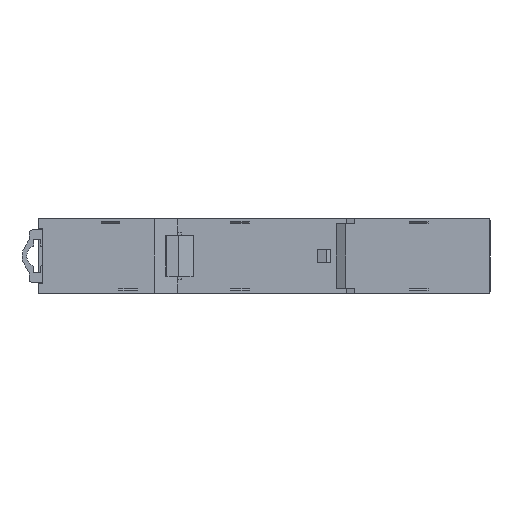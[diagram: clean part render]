
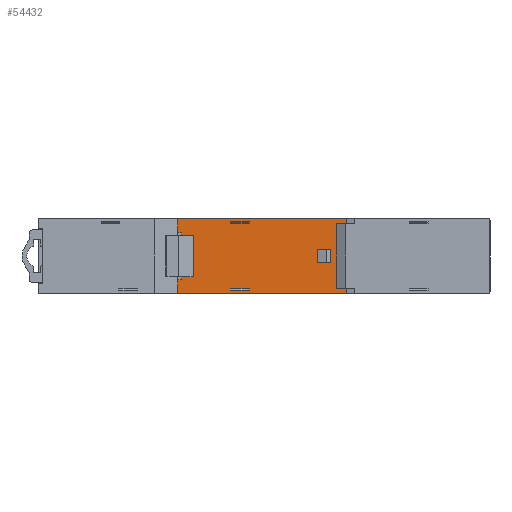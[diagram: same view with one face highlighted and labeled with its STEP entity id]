
A CAD part, front view. The second image highlights one B-rep face of the part: STEP entity #54432.
In plain terms, the highlighted planar face has unit normal (0, -1, 0).
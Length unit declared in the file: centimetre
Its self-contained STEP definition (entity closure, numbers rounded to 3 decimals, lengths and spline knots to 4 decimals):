
#1257=CARTESIAN_POINT('',(2.84,0.36,-0.4985));
#1258=VERTEX_POINT('',#1257);
#1267=CARTESIAN_POINT('',(2.922,0.36,-0.4985));
#1268=VERTEX_POINT('',#1267);
#1269=CARTESIAN_POINT('',(2.922,0.36,-0.4985));
#1270=DIRECTION('',(-1.0,0.0,0.0));
#1271=VECTOR('',#1270,0.082);
#1272=LINE('',#1269,#1271);
#1273=EDGE_CURVE('',#1268,#1258,#1272,.T.);
#1299=CARTESIAN_POINT('',(2.84,0.36,0.4915));
#1300=VERTEX_POINT('',#1299);
#1315=CARTESIAN_POINT('',(2.922,0.36,0.4915));
#1316=VERTEX_POINT('',#1315);
#1323=CARTESIAN_POINT('',(2.84,0.36,0.4915));
#1324=DIRECTION('',(1.0,0.0,0.0));
#1325=VECTOR('',#1324,0.082);
#1326=LINE('',#1323,#1325);
#1327=EDGE_CURVE('',#1300,#1316,#1326,.T.);
#1387=CARTESIAN_POINT('',(2.965,0.36,0.4315));
#1388=VERTEX_POINT('',#1387);
#1395=CARTESIAN_POINT('',(2.922,0.36,0.4315));
#1396=VERTEX_POINT('',#1395);
#1397=CARTESIAN_POINT('',(2.922,0.36,0.4315));
#1398=DIRECTION('',(1.0,0.0,0.0));
#1399=VECTOR('',#1398,0.043);
#1400=LINE('',#1397,#1399);
#1401=EDGE_CURVE('',#1396,#1388,#1400,.T.);
#2206=CARTESIAN_POINT('',(2.922,0.36,-0.4385));
#2207=VERTEX_POINT('',#2206);
#2208=CARTESIAN_POINT('',(2.922,0.36,-0.4385));
#2209=DIRECTION('',(0.0,0.0,-1.0));
#2210=VECTOR('',#2209,0.06);
#2211=LINE('',#2208,#2210);
#2212=EDGE_CURVE('',#2207,#1268,#2211,.T.);
#2640=CARTESIAN_POINT('',(2.965,0.36,-0.4385));
#2641=VERTEX_POINT('',#2640);
#2642=CARTESIAN_POINT('',(2.965,0.36,-0.4385));
#2643=DIRECTION('',(-1.0,0.0,0.0));
#2644=VECTOR('',#2643,0.043);
#2645=LINE('',#2642,#2644);
#2646=EDGE_CURVE('',#2641,#2207,#2645,.T.);
#2833=CARTESIAN_POINT('',(2.965,0.36,0.4315));
#2834=DIRECTION('',(0.0,0.0,-1.0));
#2835=VECTOR('',#2834,0.87);
#2836=LINE('',#2833,#2835);
#2837=EDGE_CURVE('',#1388,#2641,#2836,.T.);
#2849=CARTESIAN_POINT('',(2.922,0.36,0.4915));
#2850=DIRECTION('',(0.0,0.0,-1.0));
#2851=VECTOR('',#2850,0.06);
#2852=LINE('',#2849,#2851);
#2853=EDGE_CURVE('',#1316,#1396,#2852,.T.);
#2930=CARTESIAN_POINT('',(2.84,0.36,0.79));
#2931=VERTEX_POINT('',#2930);
#2932=CARTESIAN_POINT('',(2.84,0.36,0.4915));
#2933=DIRECTION('',(0.0,0.0,1.0));
#2934=VECTOR('',#2933,0.2985);
#2935=LINE('',#2932,#2934);
#2936=EDGE_CURVE('',#1300,#2931,#2935,.T.);
#20051=CARTESIAN_POINT('',(6.4,0.36,-0.68));
#20052=VERTEX_POINT('',#20051);
#20059=CARTESIAN_POINT('',(6.4,0.36,-0.79));
#20060=VERTEX_POINT('',#20059);
#20061=CARTESIAN_POINT('',(6.4,0.36,-0.68));
#20062=DIRECTION('',(0.0,0.0,-1.0));
#20063=VECTOR('',#20062,0.11);
#20064=LINE('',#20061,#20063);
#20065=EDGE_CURVE('',#20052,#20060,#20064,.T.);
#20175=CARTESIAN_POINT('',(4.355,0.36,-0.69));
#20176=VERTEX_POINT('',#20175);
#20183=CARTESIAN_POINT('',(3.955,0.36,-0.69));
#20184=VERTEX_POINT('',#20183);
#20185=CARTESIAN_POINT('',(3.955,0.36,-0.69));
#20186=DIRECTION('',(1.0,0.0,0.0));
#20187=VECTOR('',#20186,0.4);
#20188=LINE('',#20185,#20187);
#20189=EDGE_CURVE('',#20184,#20176,#20188,.T.);
#21280=CARTESIAN_POINT('',(4.355,0.36,0.69));
#21281=VERTEX_POINT('',#21280);
#21298=CARTESIAN_POINT('',(3.955,0.36,0.69));
#21299=VERTEX_POINT('',#21298);
#21306=CARTESIAN_POINT('',(3.955,0.36,0.69));
#21307=DIRECTION('',(1.0,0.0,0.0));
#21308=VECTOR('',#21307,0.4);
#21309=LINE('',#21306,#21308);
#21310=EDGE_CURVE('',#21299,#21281,#21309,.T.);
#25384=CARTESIAN_POINT('',(6.4,0.36,0.79));
#25385=VERTEX_POINT('',#25384);
#25386=CARTESIAN_POINT('',(2.84,0.36,0.79));
#25387=DIRECTION('',(1.0,0.0,0.0));
#25388=VECTOR('',#25387,3.56);
#25389=LINE('',#25386,#25388);
#25390=EDGE_CURVE('',#2931,#25385,#25389,.T.);
#26352=CARTESIAN_POINT('',(2.84,0.36,-0.79));
#26353=VERTEX_POINT('',#26352);
#26354=CARTESIAN_POINT('',(2.84,0.36,-0.79));
#26355=DIRECTION('',(1.0,0.0,0.0));
#26356=VECTOR('',#26355,3.56);
#26357=LINE('',#26354,#26356);
#26358=EDGE_CURVE('',#26353,#20060,#26357,.T.);
#32488=CARTESIAN_POINT('',(6.4,0.36,0.68));
#32489=VERTEX_POINT('',#32488);
#32498=CARTESIAN_POINT('',(6.4,0.36,0.79));
#32499=DIRECTION('',(0.0,0.0,-1.0));
#32500=VECTOR('',#32499,0.11);
#32501=LINE('',#32498,#32500);
#32502=EDGE_CURVE('',#25385,#32489,#32501,.T.);
#42198=CARTESIAN_POINT('',(3.955,0.36,-0.72));
#42199=VERTEX_POINT('',#42198);
#42200=CARTESIAN_POINT('',(3.955,0.36,-0.72));
#42201=DIRECTION('',(0.0,0.0,1.0));
#42202=VECTOR('',#42201,0.03);
#42203=LINE('',#42200,#42202);
#42204=EDGE_CURVE('',#42199,#20184,#42203,.T.);
#42223=CARTESIAN_POINT('',(4.355,0.36,-0.72));
#42224=VERTEX_POINT('',#42223);
#42225=CARTESIAN_POINT('',(4.355,0.36,-0.72));
#42226=DIRECTION('',(-1.0,0.0,0.0));
#42227=VECTOR('',#42226,0.4);
#42228=LINE('',#42225,#42227);
#42229=EDGE_CURVE('',#42224,#42199,#42228,.T.);
#42245=CARTESIAN_POINT('',(4.355,0.36,-0.69));
#42246=DIRECTION('',(0.0,0.0,-1.0));
#42247=VECTOR('',#42246,0.03);
#42248=LINE('',#42245,#42247);
#42249=EDGE_CURVE('',#20176,#42224,#42248,.T.);
#42262=CARTESIAN_POINT('',(3.955,0.36,0.72));
#42263=VERTEX_POINT('',#42262);
#42270=CARTESIAN_POINT('',(3.955,0.36,0.69));
#42271=DIRECTION('',(0.0,0.0,1.0));
#42272=VECTOR('',#42271,0.03);
#42273=LINE('',#42270,#42272);
#42274=EDGE_CURVE('',#21299,#42263,#42273,.T.);
#42284=CARTESIAN_POINT('',(4.355,0.36,0.72));
#42285=VERTEX_POINT('',#42284);
#42286=CARTESIAN_POINT('',(3.955,0.36,0.72));
#42287=DIRECTION('',(1.0,0.0,0.0));
#42288=VECTOR('',#42287,0.4);
#42289=LINE('',#42286,#42288);
#42290=EDGE_CURVE('',#42263,#42285,#42289,.T.);
#42309=CARTESIAN_POINT('',(4.355,0.36,0.72));
#42310=DIRECTION('',(0.0,0.0,-1.0));
#42311=VECTOR('',#42310,0.03);
#42312=LINE('',#42309,#42311);
#42313=EDGE_CURVE('',#42285,#21281,#42312,.T.);
#54278=CARTESIAN_POINT('',(6.39,0.36,0.68));
#54279=VERTEX_POINT('',#54278);
#54280=CARTESIAN_POINT('',(6.4,0.36,0.68));
#54281=DIRECTION('',(-1.0,0.0,0.0));
#54282=VECTOR('',#54281,0.01);
#54283=LINE('',#54280,#54282);
#54284=EDGE_CURVE('',#32489,#54279,#54283,.T.);
#54346=CARTESIAN_POINT('',(2.662,0.36,-0.869));
#54347=DIRECTION('',(0.0,-1.0,0.0));
#54348=DIRECTION('',(1.0,0.0,0.0));
#54349=AXIS2_PLACEMENT_3D('',#54346,#54347,#54348);
#54350=PLANE('',#54349);
#54351=ORIENTED_EDGE('',*,*,#1273,.T.);
#54352=CARTESIAN_POINT('',(2.84,0.36,-0.79));
#54353=DIRECTION('',(0.0,0.0,1.0));
#54354=VECTOR('',#54353,0.2915);
#54355=LINE('',#54352,#54354);
#54356=EDGE_CURVE('',#26353,#1258,#54355,.T.);
#54357=ORIENTED_EDGE('',*,*,#54356,.F.);
#54358=ORIENTED_EDGE('',*,*,#26358,.T.);
#54359=ORIENTED_EDGE('',*,*,#20065,.F.);
#54360=CARTESIAN_POINT('',(6.39,0.36,-0.68));
#54361=VERTEX_POINT('',#54360);
#54362=CARTESIAN_POINT('',(6.39,0.36,-0.68));
#54363=DIRECTION('',(1.0,0.0,0.0));
#54364=VECTOR('',#54363,0.01);
#54365=LINE('',#54362,#54364);
#54366=EDGE_CURVE('',#54361,#20052,#54365,.T.);
#54367=ORIENTED_EDGE('',*,*,#54366,.F.);
#54368=CARTESIAN_POINT('',(6.39,0.36,-0.68));
#54369=DIRECTION('',(0.0,0.0,1.0));
#54370=VECTOR('',#54369,1.36);
#54371=LINE('',#54368,#54370);
#54372=EDGE_CURVE('',#54361,#54279,#54371,.T.);
#54373=ORIENTED_EDGE('',*,*,#54372,.T.);
#54374=ORIENTED_EDGE('',*,*,#54284,.F.);
#54375=ORIENTED_EDGE('',*,*,#32502,.F.);
#54376=ORIENTED_EDGE('',*,*,#25390,.F.);
#54377=ORIENTED_EDGE('',*,*,#2936,.F.);
#54378=ORIENTED_EDGE('',*,*,#1327,.T.);
#54379=ORIENTED_EDGE('',*,*,#2853,.T.);
#54380=ORIENTED_EDGE('',*,*,#1401,.T.);
#54381=ORIENTED_EDGE('',*,*,#2837,.T.);
#54382=ORIENTED_EDGE('',*,*,#2646,.T.);
#54383=ORIENTED_EDGE('',*,*,#2212,.T.);
#54384=EDGE_LOOP('',(#54351,#54357,#54358,#54359,#54367,#54373,#54374,#54375,#54376,#54377,#54378,#54379,#54380,#54381,#54382,#54383));
#54385=FACE_OUTER_BOUND('',#54384,.T.);
#54386=ORIENTED_EDGE('',*,*,#42249,.T.);
#54387=ORIENTED_EDGE('',*,*,#42229,.T.);
#54388=ORIENTED_EDGE('',*,*,#42204,.T.);
#54389=ORIENTED_EDGE('',*,*,#20189,.T.);
#54390=EDGE_LOOP('',(#54386,#54387,#54388,#54389));
#54391=FACE_BOUND('',#54390,.T.);
#54392=ORIENTED_EDGE('',*,*,#21310,.F.);
#54393=ORIENTED_EDGE('',*,*,#42274,.T.);
#54394=ORIENTED_EDGE('',*,*,#42290,.T.);
#54395=ORIENTED_EDGE('',*,*,#42313,.T.);
#54396=EDGE_LOOP('',(#54392,#54393,#54394,#54395));
#54397=FACE_BOUND('',#54396,.T.);
#54398=CARTESIAN_POINT('',(6.0766,0.36,-0.14));
#54399=VERTEX_POINT('',#54398);
#54400=CARTESIAN_POINT('',(5.8034,0.36,-0.14));
#54401=VERTEX_POINT('',#54400);
#54402=CARTESIAN_POINT('',(6.0766,0.36,-0.14));
#54403=DIRECTION('',(-1.0,0.0,0.0));
#54404=VECTOR('',#54403,0.2732);
#54405=LINE('',#54402,#54404);
#54406=EDGE_CURVE('',#54399,#54401,#54405,.T.);
#54407=ORIENTED_EDGE('',*,*,#54406,.T.);
#54408=CARTESIAN_POINT('',(5.8034,0.36,0.14));
#54409=VERTEX_POINT('',#54408);
#54410=CARTESIAN_POINT('',(5.8034,0.36,-0.14));
#54411=DIRECTION('',(0.0,0.0,1.0));
#54412=VECTOR('',#54411,0.28);
#54413=LINE('',#54410,#54412);
#54414=EDGE_CURVE('',#54401,#54409,#54413,.T.);
#54415=ORIENTED_EDGE('',*,*,#54414,.T.);
#54416=CARTESIAN_POINT('',(6.0766,0.36,0.14));
#54417=VERTEX_POINT('',#54416);
#54418=CARTESIAN_POINT('',(5.8034,0.36,0.14));
#54419=DIRECTION('',(1.0,0.0,0.0));
#54420=VECTOR('',#54419,0.2732);
#54421=LINE('',#54418,#54420);
#54422=EDGE_CURVE('',#54409,#54417,#54421,.T.);
#54423=ORIENTED_EDGE('',*,*,#54422,.T.);
#54424=CARTESIAN_POINT('',(6.0766,0.36,0.14));
#54425=DIRECTION('',(0.0,0.0,-1.0));
#54426=VECTOR('',#54425,0.28);
#54427=LINE('',#54424,#54426);
#54428=EDGE_CURVE('',#54417,#54399,#54427,.T.);
#54429=ORIENTED_EDGE('',*,*,#54428,.T.);
#54430=EDGE_LOOP('',(#54407,#54415,#54423,#54429));
#54431=FACE_BOUND('',#54430,.T.);
#54432=ADVANCED_FACE('',(#54385,#54391,#54397,#54431),#54350,.T.);
